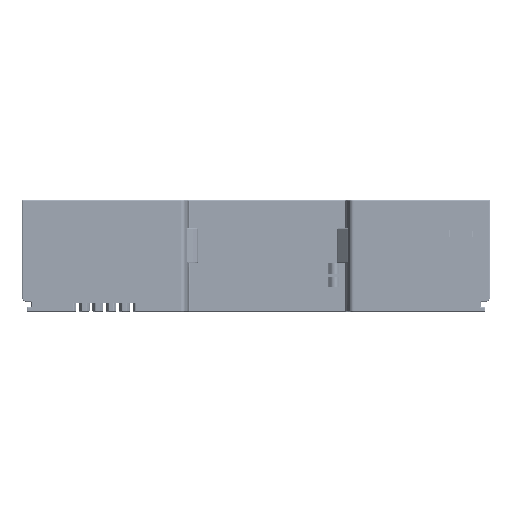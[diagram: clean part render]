
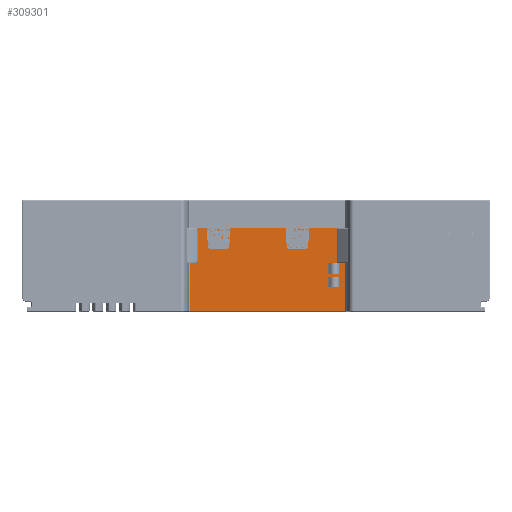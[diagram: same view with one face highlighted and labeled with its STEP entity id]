
A CAD part, front view. The second image highlights one B-rep face of the part: STEP entity #309301.
In plain terms, the highlighted planar face has unit normal (0, -1, 0).
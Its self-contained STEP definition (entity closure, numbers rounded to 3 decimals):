
#165900=DIRECTION('',(-1.,0.,0.));
#165901=VECTOR('',#165900,34.8);
#165902=CARTESIAN_POINT('',(17.4,5.6,18.75));
#165903=LINE('',#165902,#165901);
#168890=DIRECTION('',(0.,0.,1.));
#168891=VECTOR('',#168890,10.7);
#168892=CARTESIAN_POINT('',(17.4,5.6,0.2));
#168893=LINE('',#168892,#168891);
#168918=DIRECTION('',(0.,0.,1.));
#168919=VECTOR('',#168918,7.4);
#168920=CARTESIAN_POINT('',(-17.285,5.6,11.1));
#168921=LINE('',#168920,#168919);
#168925=CARTESIAN_POINT('',(-17.285,5.6,18.5));
#168926=CARTESIAN_POINT('',(-17.285,5.6,18.542));
#168927=CARTESIAN_POINT('',(-17.309,5.6,18.612));
#168928=CARTESIAN_POINT('',(-17.362,5.6,18.663));
#168929=CARTESIAN_POINT('',(-17.4,5.6,18.681));
#168934=DIRECTION('',(0.,0.,1.));
#168935=VECTOR('',#168934,0.069);
#168936=CARTESIAN_POINT('',(-17.4,5.6,18.681));
#168937=LINE('',#168936,#168935);
#168941=CARTESIAN_POINT('',(17.4,5.6,18.5));
#168942=DIRECTION('',(0.,-1.,0.));
#168943=DIRECTION('',(0.,0.,1.));
#168944=AXIS2_PLACEMENT_3D('',#168941,#168942,#168943);
#168949=DIRECTION('',(0.,0.,-1.));
#168950=VECTOR('',#168949,7.4);
#168951=CARTESIAN_POINT('',(17.2,5.6,18.5));
#168952=LINE('',#168951,#168950);
#168956=CARTESIAN_POINT('',(17.4,5.6,11.1));
#168957=DIRECTION('',(0.,1.,0.));
#168958=DIRECTION('',(0.,0.,-1.));
#168959=AXIS2_PLACEMENT_3D('',#168956,#168957,#168958);
#168964=DIRECTION('',(-1.,0.,0.));
#168965=VECTOR('',#168964,34.8);
#168966=CARTESIAN_POINT('',(17.4,5.6,0.2));
#168967=LINE('',#168966,#168965);
#168971=DIRECTION('',(0.,0.,1.));
#168972=VECTOR('',#168971,10.719);
#168973=CARTESIAN_POINT('',(-17.4,5.6,0.2));
#168974=LINE('',#168973,#168972);
#168978=CARTESIAN_POINT('',(-17.4,5.6,10.919));
#168979=CARTESIAN_POINT('',(-17.362,5.6,10.937));
#168980=CARTESIAN_POINT('',(-17.309,5.6,10.988));
#168981=CARTESIAN_POINT('',(-17.285,5.6,11.058));
#168982=CARTESIAN_POINT('',(-17.285,5.6,11.1));
#169023=CARTESIAN_POINT('',(-17.4,5.6,10.919));
#169282=CARTESIAN_POINT('',(-17.4,5.6,18.681));
#169550=DIRECTION('',(0.,0.,1.));
#169551=VECTOR('',#169550,0.05);
#169552=CARTESIAN_POINT('',(17.4,5.6,18.7));
#169553=LINE('',#169552,#169551);
#259446=CARTESIAN_POINT('',(-17.4,5.6,0.2));
#259447=VERTEX_POINT('',#259446);
#259450=CARTESIAN_POINT('',(17.4,5.6,0.2));
#259451=VERTEX_POINT('',#259450);
#259871=CARTESIAN_POINT('',(-17.4,5.6,18.75));
#259872=VERTEX_POINT('',#259871);
#259873=CARTESIAN_POINT('',(17.4,5.6,18.75));
#259875=VERTEX_POINT('',#259873);
#269742=VERTEX_POINT('',#169023);
#269743=VERTEX_POINT('',#169282);
#269744=CARTESIAN_POINT('',(-17.285,5.6,11.1));
#269745=CARTESIAN_POINT('',(-17.285,5.6,18.5));
#269746=VERTEX_POINT('',#269744);
#269747=VERTEX_POINT('',#269745);
#269748=CARTESIAN_POINT('',(17.2,5.6,18.5));
#269749=CARTESIAN_POINT('',(17.2,5.6,11.1));
#269750=VERTEX_POINT('',#269748);
#269751=VERTEX_POINT('',#269749);
#269752=CARTESIAN_POINT('',(17.4,5.6,10.9));
#269753=VERTEX_POINT('',#269752);
#269754=CARTESIAN_POINT('',(17.4,5.6,18.7));
#269755=VERTEX_POINT('',#269754);
#309273=CARTESIAN_POINT('',(-17.4,5.6,0.));
#309274=DIRECTION('',(0.,-1.,0.));
#309275=DIRECTION('',(1.,0.,0.));
#309276=AXIS2_PLACEMENT_3D('',#309273,#309274,#309275);
#309277=PLANE('',#309276);
#309279=ORIENTED_EDGE('',*,*,#309278,.T.);
#309281=ORIENTED_EDGE('',*,*,#309280,.T.);
#309283=ORIENTED_EDGE('',*,*,#309282,.T.);
#309284=ORIENTED_EDGE('',*,*,#306820,.F.);
#309286=ORIENTED_EDGE('',*,*,#309285,.F.);
#309288=ORIENTED_EDGE('',*,*,#309287,.T.);
#309290=ORIENTED_EDGE('',*,*,#309289,.T.);
#309292=ORIENTED_EDGE('',*,*,#309291,.F.);
#309293=ORIENTED_EDGE('',*,*,#309242,.F.);
#309294=ORIENTED_EDGE('',*,*,#275952,.T.);
#309296=ORIENTED_EDGE('',*,*,#309295,.T.);
#309298=ORIENTED_EDGE('',*,*,#309297,.T.);
#309299=EDGE_LOOP('',(#309279,#309281,#309283,#309284,#309286,#309288,#309290,
#309292,#309293,#309294,#309296,#309298));
#309300=FACE_OUTER_BOUND('',#309299,.F.);
#309301=ADVANCED_FACE('',(#309300),#309277,.T.);
#168930=B_SPLINE_CURVE_WITH_KNOTS('',3,(#168925,#168926,#168927,#168928,
#168929),.UNSPECIFIED.,.F.,.F.,(4,1,4),(0.,0.5,1.),.UNSPECIFIED.);
#168945=CIRCLE('',#168944,0.2);
#168960=CIRCLE('',#168959,0.2);
#168983=B_SPLINE_CURVE_WITH_KNOTS('',3,(#168978,#168979,#168980,#168981,
#168982),.UNSPECIFIED.,.F.,.F.,(4,1,4),(0.,0.5,1.),.UNSPECIFIED.);
#275952=EDGE_CURVE('',#259451,#259447,#168967,.T.);
#306820=EDGE_CURVE('',#259875,#259872,#165903,.T.);
#309242=EDGE_CURVE('',#259451,#269753,#168893,.T.);
#309278=EDGE_CURVE('',#269746,#269747,#168921,.T.);
#309280=EDGE_CURVE('',#269747,#269743,#168930,.T.);
#309282=EDGE_CURVE('',#269743,#259872,#168937,.T.);
#309285=EDGE_CURVE('',#269755,#259875,#169553,.T.);
#309287=EDGE_CURVE('',#269755,#269750,#168945,.T.);
#309289=EDGE_CURVE('',#269750,#269751,#168952,.T.);
#309291=EDGE_CURVE('',#269753,#269751,#168960,.T.);
#309295=EDGE_CURVE('',#259447,#269742,#168974,.T.);
#309297=EDGE_CURVE('',#269742,#269746,#168983,.T.);
